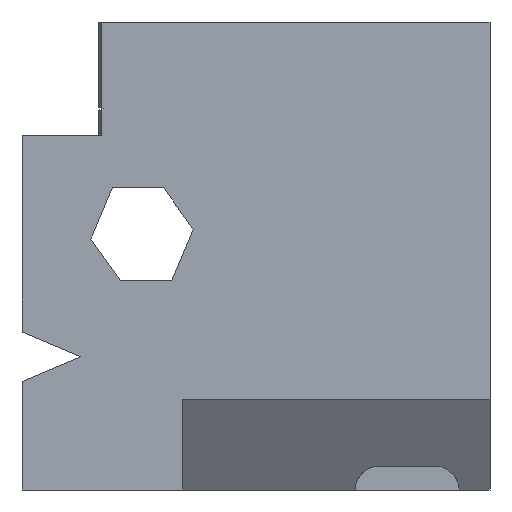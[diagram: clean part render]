
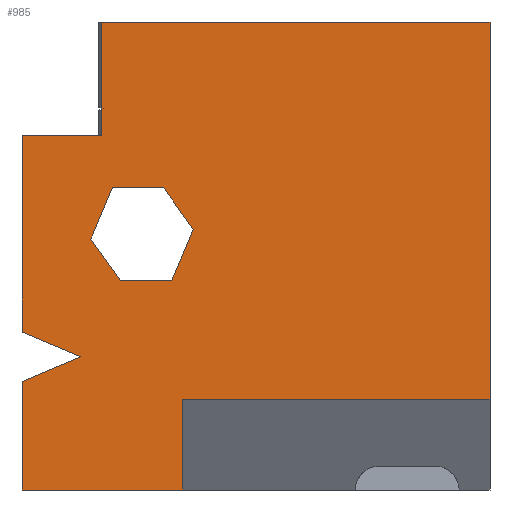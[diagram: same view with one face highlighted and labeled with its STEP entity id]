
A CAD part, front view. The second image highlights one B-rep face of the part: STEP entity #985.
In plain terms, the highlighted planar face has unit normal (0, -1, 0).
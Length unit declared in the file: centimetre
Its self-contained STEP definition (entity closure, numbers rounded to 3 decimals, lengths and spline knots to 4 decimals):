
#27 = LINE ( 'NONE', #1120, #819 ) ;
#51 = CARTESIAN_POINT ( 'NONE',  ( 0., 0., 0. ) ) ;
#65 = ORIENTED_EDGE ( 'NONE', *, *, #1308, .F. ) ;
#72 = DIRECTION ( 'NONE',  ( 1., 0., 0. ) ) ;
#105 = AXIS2_PLACEMENT_3D ( 'NONE', #900, #1447, #1436 ) ;
#110 = ORIENTED_EDGE ( 'NONE', *, *, #1215, .F. ) ;
#112 = CARTESIAN_POINT ( 'NONE',  ( 170.3123, 0., 757.7102 ) ) ;
#133 = EDGE_CURVE ( 'NONE', #340, #545, #732, .T. ) ;
#134 = CARTESIAN_POINT ( 'NONE',  ( 170.3123, 0., 815.5851 ) ) ;
#142 = EDGE_CURVE ( 'NONE', #444, #1034, #1011, .T. ) ;
#152 = VECTOR ( 'NONE', #72, 100. ) ;
#153 = DIRECTION ( 'NONE',  ( -0.387, 0., -0.922 ) ) ;
#155 = EDGE_CURVE ( 'NONE', #1034, #1123, #1559, .T. ) ;
#165 = CARTESIAN_POINT ( 'NONE',  ( 0., 0., 757.7102 ) ) ;
#174 = VERTEX_POINT ( 'NONE', #459 ) ;
#188 = LINE ( 'NONE', #1299, #855 ) ;
#192 = FACE_BOUND ( 'NONE', #228, .T. ) ;
#196 = DIRECTION ( 'NONE',  ( 0.577, 0., -0.817 ) ) ;
#207 = CARTESIAN_POINT ( 'NONE',  ( 125.8843, 0., 284.6676 ) ) ;
#212 = FACE_OUTER_BOUND ( 'NONE', #1429, .T. ) ;
#228 = EDGE_LOOP ( 'NONE', ( #1445, #1208, #601, #253, #575, #244 ) ) ;
#229 = CARTESIAN_POINT ( 'NONE',  ( 0., 0., 1000. ) ) ;
#236 = VERTEX_POINT ( 'NONE', #207 ) ;
#244 = ORIENTED_EDGE ( 'NONE', *, *, #317, .F. ) ;
#253 = ORIENTED_EDGE ( 'NONE', *, *, #142, .F. ) ;
#274 = VECTOR ( 'NONE', #338, 100. ) ;
#303 = VECTOR ( 'NONE', #1746, 100. ) ;
#317 = EDGE_CURVE ( 'NONE', #799, #929, #188, .T. ) ;
#329 = CARTESIAN_POINT ( 'NONE',  ( 147.2996, 0., 536.2966 ) ) ;
#338 = DIRECTION ( 'NONE',  ( -0.962, 0., 0.273 ) ) ;
#340 = VERTEX_POINT ( 'NONE', #638 ) ;
#346 = PLANE ( 'NONE',  #105 ) ;
#349 = CARTESIAN_POINT ( 'NONE',  ( 343.6164, 0., 193.5115 ) ) ;
#355 = VERTEX_POINT ( 'NONE', #663 ) ;
#405 = EDGE_CURVE ( 'NONE', #748, #1199, #1072, .T. ) ;
#406 = CARTESIAN_POINT ( 'NONE',  ( 365.919, 0., 556.2256 ) ) ;
#415 = VECTOR ( 'NONE', #986, 100. ) ;
#416 = LINE ( 'NONE', #837, #1428 ) ;
#427 = CARTESIAN_POINT ( 'NONE',  ( 319.8937, 0., 446.6139 ) ) ;
#444 = VERTEX_POINT ( 'NONE', #1607 ) ;
#450 = VECTOR ( 'NONE', #1063, 100. ) ;
#451 = EDGE_CURVE ( 'NONE', #1754, #799, #520, .T. ) ;
#456 = VERTEX_POINT ( 'NONE', #1102 ) ;
#459 = CARTESIAN_POINT ( 'NONE',  ( 1000., 0., 193.5115 ) ) ;
#460 = VECTOR ( 'NONE', #950, 100. ) ;
#462 = CARTESIAN_POINT ( 'NONE',  ( 170.3123, 0., 757.7102 ) ) ;
#469 = VECTOR ( 'NONE', #1590, 100. ) ;
#486 = LINE ( 'NONE', #1744, #1148 ) ;
#492 = ORIENTED_EDGE ( 'NONE', *, *, #1626, .T. ) ;
#520 = LINE ( 'NONE', #1198, #450 ) ;
#537 = EDGE_CURVE ( 'NONE', #1123, #1754, #833, .T. ) ;
#545 = VERTEX_POINT ( 'NONE', #1532 ) ;
#559 = CARTESIAN_POINT ( 'NONE',  ( 302.6347, 0., 645.9083 ) ) ;
#575 = ORIENTED_EDGE ( 'NONE', *, *, #1547, .F. ) ;
#592 = CARTESIAN_POINT ( 'NONE',  ( 0., 0., 231.9905 ) ) ;
#594 = VERTEX_POINT ( 'NONE', #1235 ) ;
#601 = ORIENTED_EDGE ( 'NONE', *, *, #155, .F. ) ;
#604 = ORIENTED_EDGE ( 'NONE', *, *, #1437, .F. ) ;
#638 = CARTESIAN_POINT ( 'NONE',  ( 170.3123, 0., 813.3497 ) ) ;
#660 = VECTOR ( 'NONE', #1709, 100. ) ;
#663 = CARTESIAN_POINT ( 'NONE',  ( 343.6164, 0., 0. ) ) ;
#702 = LINE ( 'NONE', #835, #415 ) ;
#706 = VECTOR ( 'NONE', #1711, 100. ) ;
#732 = LINE ( 'NONE', #1720, #660 ) ;
#734 = CARTESIAN_POINT ( 'NONE',  ( 210.584, 0., 446.6139 ) ) ;
#748 = VERTEX_POINT ( 'NONE', #1261 ) ;
#752 = LINE ( 'NONE', #777, #152 ) ;
#761 = EDGE_CURVE ( 'NONE', #1081, #1344, #702, .T. ) ;
#770 = CARTESIAN_POINT ( 'NONE',  ( 1000., 0., 1000. ) ) ;
#777 = CARTESIAN_POINT ( 'NONE',  ( 0., 0., 1000. ) ) ;
#793 = LINE ( 'NONE', #1191, #460 ) ;
#799 = VERTEX_POINT ( 'NONE', #559 ) ;
#810 = LINE ( 'NONE', #931, #1766 ) ;
#819 = VECTOR ( 'NONE', #1674, 100. ) ;
#833 = LINE ( 'NONE', #1127, #920 ) ;
#835 = CARTESIAN_POINT ( 'NONE',  ( 170.3123, 0., 757.7102 ) ) ;
#837 = CARTESIAN_POINT ( 'NONE',  ( 193.325, 0., 645.9083 ) ) ;
#840 = DIRECTION ( 'NONE',  ( 0.387, 0., 0.922 ) ) ;
#855 = VECTOR ( 'NONE', #1289, 100. ) ;
#861 = EDGE_CURVE ( 'NONE', #1199, #355, #27, .T. ) ;
#872 = EDGE_CURVE ( 'NONE', #1594, #1535, #1694, .T. ) ;
#883 = ORIENTED_EDGE ( 'NONE', *, *, #1281, .F. ) ;
#887 = VERTEX_POINT ( 'NONE', #1552 ) ;
#900 = CARTESIAN_POINT ( 'NONE',  ( 0., 0., 1000. ) ) ;
#914 = LINE ( 'NONE', #349, #1217 ) ;
#920 = VECTOR ( 'NONE', #840, 100. ) ;
#929 = VERTEX_POINT ( 'NONE', #1703 ) ;
#931 = CARTESIAN_POINT ( 'NONE',  ( 125.8843, 0., 284.6676 ) ) ;
#950 = DIRECTION ( 'NONE',  ( 0., 0., 1. ) ) ;
#972 = VECTOR ( 'NONE', #1313, 100. ) ;
#981 = DIRECTION ( 'NONE',  ( 0., 0., -1. ) ) ;
#985 = ADVANCED_FACE ( 'NONE', ( #192, #212 ), #346, .F. ) ;
#986 = DIRECTION ( 'NONE',  ( 1., 0., 0. ) ) ;
#1011 = LINE ( 'NONE', #329, #1489 ) ;
#1029 = LINE ( 'NONE', #592, #469 ) ;
#1034 = VERTEX_POINT ( 'NONE', #1220 ) ;
#1041 = VECTOR ( 'NONE', #1508, 100. ) ;
#1056 = DIRECTION ( 'NONE',  ( 0.922, 0., -0.386 ) ) ;
#1063 = DIRECTION ( 'NONE',  ( -0.577, 0., 0.817 ) ) ;
#1072 = LINE ( 'NONE', #229, #303 ) ;
#1081 = VERTEX_POINT ( 'NONE', #165 ) ;
#1102 = CARTESIAN_POINT ( 'NONE',  ( 0., 0., 337.3448 ) ) ;
#1120 = CARTESIAN_POINT ( 'NONE',  ( 0., 0., 0. ) ) ;
#1123 = VERTEX_POINT ( 'NONE', #427 ) ;
#1127 = CARTESIAN_POINT ( 'NONE',  ( 319.8937, 0., 446.6139 ) ) ;
#1148 = VECTOR ( 'NONE', #1319, 100. ) ;
#1184 = LINE ( 'NONE', #1440, #274 ) ;
#1191 = CARTESIAN_POINT ( 'NONE',  ( 170.3123, 0., 757.7102 ) ) ;
#1198 = CARTESIAN_POINT ( 'NONE',  ( 365.919, 0., 556.2256 ) ) ;
#1199 = VERTEX_POINT ( 'NONE', #51 ) ;
#1208 = ORIENTED_EDGE ( 'NONE', *, *, #537, .F. ) ;
#1215 = EDGE_CURVE ( 'NONE', #545, #1594, #1184, .T. ) ;
#1217 = VECTOR ( 'NONE', #1430, 100. ) ;
#1218 = ORIENTED_EDGE ( 'NONE', *, *, #872, .F. ) ;
#1220 = CARTESIAN_POINT ( 'NONE',  ( 210.584, 0., 446.6139 ) ) ;
#1235 = CARTESIAN_POINT ( 'NONE',  ( 343.6164, 0., 193.5115 ) ) ;
#1250 = VECTOR ( 'NONE', #981, 100. ) ;
#1261 = CARTESIAN_POINT ( 'NONE',  ( 0., 0., 231.9905 ) ) ;
#1269 = EDGE_CURVE ( 'NONE', #236, #748, #1029, .T. ) ;
#1281 = EDGE_CURVE ( 'NONE', #594, #355, #914, .T. ) ;
#1289 = DIRECTION ( 'NONE',  ( -1., 0., 0. ) ) ;
#1299 = CARTESIAN_POINT ( 'NONE',  ( 302.6347, 0., 645.9083 ) ) ;
#1308 = EDGE_CURVE ( 'NONE', #1535, #887, #752, .T. ) ;
#1313 = DIRECTION ( 'NONE',  ( 0., 0., -1. ) ) ;
#1319 = DIRECTION ( 'NONE',  ( 1., 0., 0. ) ) ;
#1323 = EDGE_CURVE ( 'NONE', #594, #174, #486, .T. ) ;
#1344 = VERTEX_POINT ( 'NONE', #112 ) ;
#1354 = LINE ( 'NONE', #770, #972 ) ;
#1372 = EDGE_CURVE ( 'NONE', #456, #236, #810, .T. ) ;
#1376 = CARTESIAN_POINT ( 'NONE',  ( 0., 0., 1000. ) ) ;
#1415 = EDGE_CURVE ( 'NONE', #887, #174, #1354, .T. ) ;
#1428 = VECTOR ( 'NONE', #153, 100. ) ;
#1429 = EDGE_LOOP ( 'NONE', ( #65, #1218, #110, #1735, #604, #1634, #492, #1449, #1549, #1432, #1554, #883, #1582, #1576 ) ) ;
#1430 = DIRECTION ( 'NONE',  ( 0., 0., -1. ) ) ;
#1432 = ORIENTED_EDGE ( 'NONE', *, *, #405, .T. ) ;
#1436 = DIRECTION ( 'NONE',  ( 0., 0., 1. ) ) ;
#1437 = EDGE_CURVE ( 'NONE', #1344, #340, #793, .T. ) ;
#1440 = CARTESIAN_POINT ( 'NONE',  ( 174.2558, 0., 814.4674 ) ) ;
#1445 = ORIENTED_EDGE ( 'NONE', *, *, #451, .F. ) ;
#1447 = DIRECTION ( 'NONE',  ( 0., 1., 0. ) ) ;
#1449 = ORIENTED_EDGE ( 'NONE', *, *, #1372, .T. ) ;
#1489 = VECTOR ( 'NONE', #196, 100. ) ;
#1508 = DIRECTION ( 'NONE',  ( 0., 0., 1. ) ) ;
#1532 = CARTESIAN_POINT ( 'NONE',  ( 174.2558, 0., 814.4674 ) ) ;
#1535 = VERTEX_POINT ( 'NONE', #1669 ) ;
#1547 = EDGE_CURVE ( 'NONE', #929, #444, #416, .T. ) ;
#1549 = ORIENTED_EDGE ( 'NONE', *, *, #1269, .T. ) ;
#1552 = CARTESIAN_POINT ( 'NONE',  ( 1000., 0., 1000. ) ) ;
#1554 = ORIENTED_EDGE ( 'NONE', *, *, #861, .T. ) ;
#1559 = LINE ( 'NONE', #734, #706 ) ;
#1576 = ORIENTED_EDGE ( 'NONE', *, *, #1415, .F. ) ;
#1582 = ORIENTED_EDGE ( 'NONE', *, *, #1323, .T. ) ;
#1590 = DIRECTION ( 'NONE',  ( -0.922, 0., -0.386 ) ) ;
#1594 = VERTEX_POINT ( 'NONE', #134 ) ;
#1607 = CARTESIAN_POINT ( 'NONE',  ( 147.2996, 0., 536.2966 ) ) ;
#1626 = EDGE_CURVE ( 'NONE', #1081, #456, #1661, .T. ) ;
#1634 = ORIENTED_EDGE ( 'NONE', *, *, #761, .F. ) ;
#1661 = LINE ( 'NONE', #1376, #1250 ) ;
#1669 = CARTESIAN_POINT ( 'NONE',  ( 170.3123, 0., 1000. ) ) ;
#1674 = DIRECTION ( 'NONE',  ( 1., 0., 0. ) ) ;
#1694 = LINE ( 'NONE', #462, #1041 ) ;
#1703 = CARTESIAN_POINT ( 'NONE',  ( 193.325, 0., 645.9083 ) ) ;
#1709 = DIRECTION ( 'NONE',  ( 0.962, 0., 0.273 ) ) ;
#1711 = DIRECTION ( 'NONE',  ( 1., 0., 0. ) ) ;
#1720 = CARTESIAN_POINT ( 'NONE',  ( 0., 0., 765.0796 ) ) ;
#1735 = ORIENTED_EDGE ( 'NONE', *, *, #133, .F. ) ;
#1744 = CARTESIAN_POINT ( 'NONE',  ( 343.6164, 0., 193.5115 ) ) ;
#1746 = DIRECTION ( 'NONE',  ( 0., 0., -1. ) ) ;
#1754 = VERTEX_POINT ( 'NONE', #406 ) ;
#1766 = VECTOR ( 'NONE', #1056, 100. ) ;
